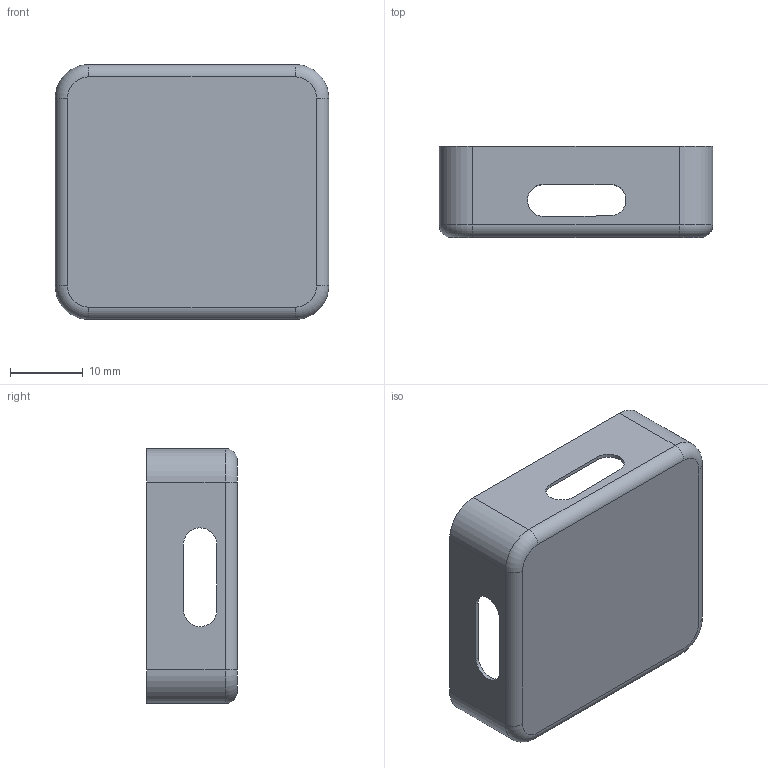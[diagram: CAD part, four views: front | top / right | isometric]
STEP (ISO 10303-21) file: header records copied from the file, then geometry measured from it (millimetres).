
FILE_DESCRIPTION(/* description */ ('STEP AP242 Edition 2','CAx-IF Rec.Pracs.---Representation and Presentation of Product Manufacturing Information (PMI)---4.0---2014-10-13','CAx-IF Rec.Pracs.---3D Tessellated Geometry---0.4---2014-09-14','2;1','CAx-IF Rec.Pracs.---User Defined Attributes---1.5---2016-08-15'),/* implementation_level */ '2;1');
FILE_NAME(/* name */ 'Assembly 1 - Part 29',/* time_stamp */ '2026-10-02T23:42:51Z',/* author */ (''),/* organization */ (''),/* preprocessor_version */ 'ST-DEVELOPER v20',/* originating_system */ 'ONSHAPE BY PTC INC, 1.221',/* authorisation */ ' ');
FILE_SCHEMA (('AP242_MANAGED_MODEL_BASED_3D_ENGINEERING_MIM_LF { 1 0 10303 442 3 1 4 }'));
Length unit declared in the file: metre
Products named in the file (1): Part 29
Bounding box: 37.61 x 12.5 x 35.05 mm (x, y, z)
Volume: 1885.4 mm3; surface area: 5373.5 mm2
Topology: 1 solids, 1 shells, 43 faces, 112 edges, 72 vertices
Faces by surface type: cylinder 20, plane 19, torus 4
Entity records: 1364 total; most frequent: DIRECTION 244, CARTESIAN_POINT 228, ORIENTED_EDGE 224, EDGE_CURVE 112, AXIS2_PLACEMENT_3D 88, VERTEX_POINT 72, LINE 68, VECTOR 68
